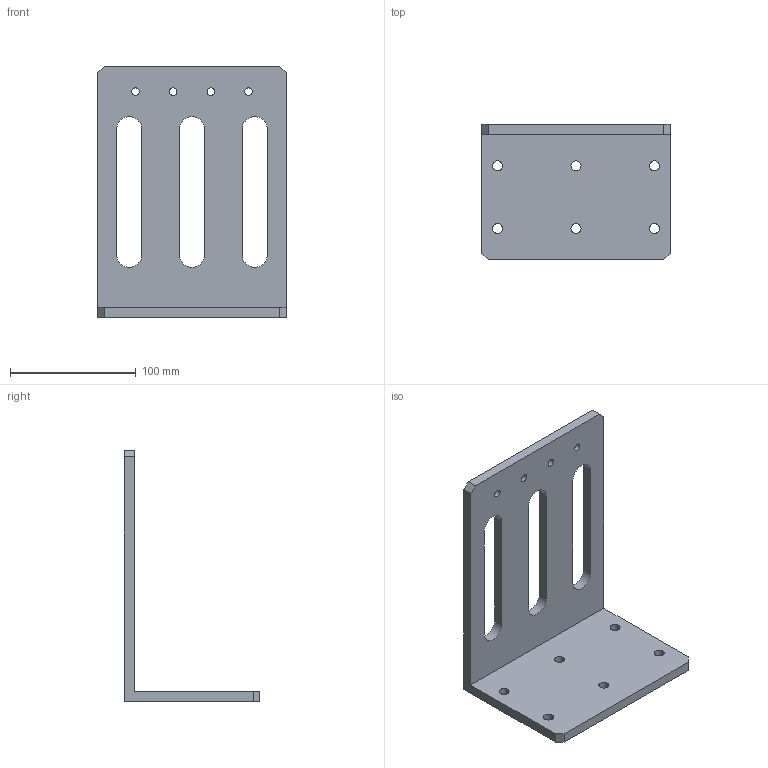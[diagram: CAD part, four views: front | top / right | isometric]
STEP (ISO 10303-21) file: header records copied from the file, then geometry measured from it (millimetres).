
FILE_DESCRIPTION(('CATIA V5 STEP Exchange'),'2;1');
FILE_NAME('D:\姚明阳\1、工装图纸\AG105\AG105.17_V1.stp','2024-04-30T05:13:26+00:00',('none'),('none'),'CATIA Version 5 Release 21 GA (IN-10)','CATIA V5 STEP AP214','none');
FILE_SCHEMA(('AUTOMOTIVE_DESIGN { 1 0 10303 214 1 1 1 1 }'));
Length unit declared in the file: millimetre
Products named in the file (1): Part5.1
Bounding box: 150 x 108 x 200 mm (x, y, z)
Volume: 300742.7 mm3; surface area: 90409.5 mm2
Topology: 1 solids, 1 shells, 44 faces, 126 edges, 84 vertices
Faces by surface type: cylinder 26, plane 18
Entity records: 1434 total; most frequent: ORIENTED_EDGE 252, CARTESIAN_POINT 245, DIRECTION 194, EDGE_CURVE 126, AXIS2_PLACEMENT_3D 87, VERTEX_POINT 84, VECTOR 74, LINE 74
